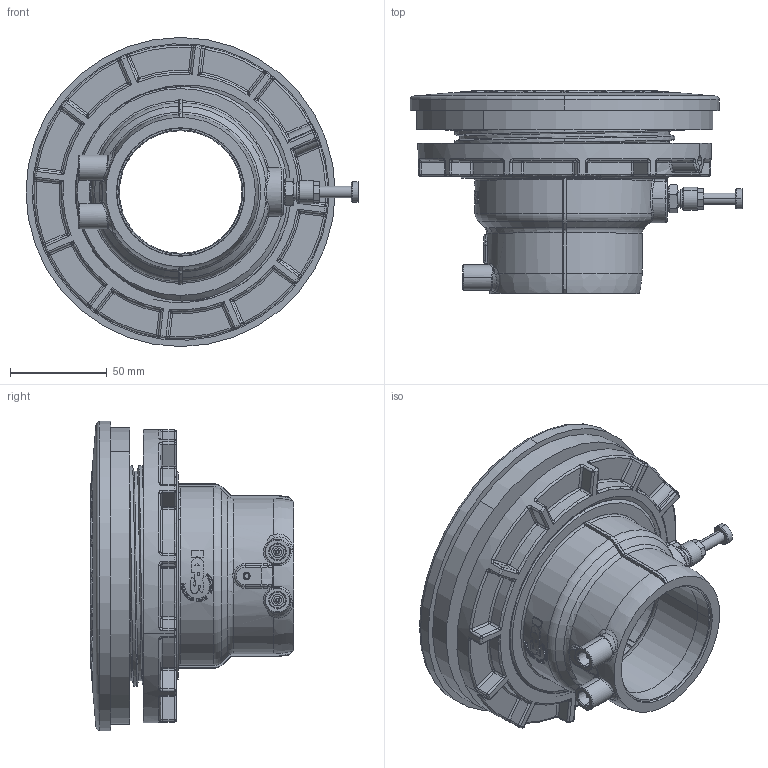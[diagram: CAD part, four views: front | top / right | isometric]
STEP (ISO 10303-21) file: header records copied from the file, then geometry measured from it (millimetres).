
FILE_DESCRIPTION (( 'STEP AP203' ), '1' );
FILE_NAME ('KP_TM75-63SC2B.STEP', '2012-01-18T13:05:06', ( '' ), ( '' ), 'SwSTEP 2.0', 'SolidWorks 2012', '' );
FILE_SCHEMA (( 'CONFIG_CONTROL_DESIGN' ));
Length unit declared in the file: millimetre
Products named in the file (1): KP_TM75-63SC2B
Bounding box: 171.77 x 105.04 x 160 mm (x, y, z)
Volume: 582479 mm3; surface area: 164384.3 mm2
Topology: 2 solids, 7 shells, 1750 faces, 4315 edges, 2509 vertices
Faces by surface type: bspline 538, plane 451, cylinder 363, torus 177, cone 125, sphere 96
Entity records: 74198 total; most frequent: CARTESIAN_POINT 38738, ORIENTED_EDGE 8334, DIRECTION 6185, EDGE_CURVE 4167, VERTEX_POINT 2507, AXIS2_PLACEMENT_3D 2501, EDGE_LOOP 1838, ADVANCED_FACE 1750
